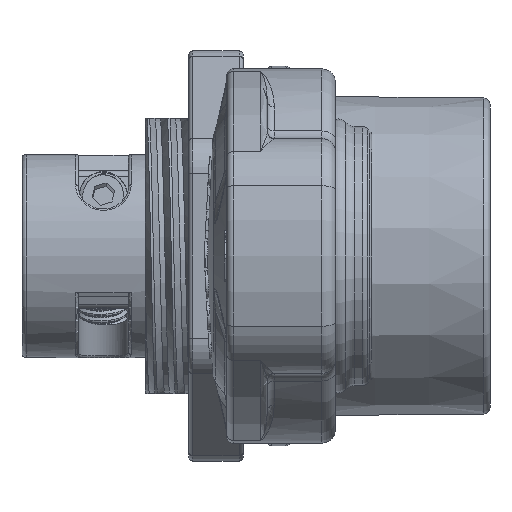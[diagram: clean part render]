
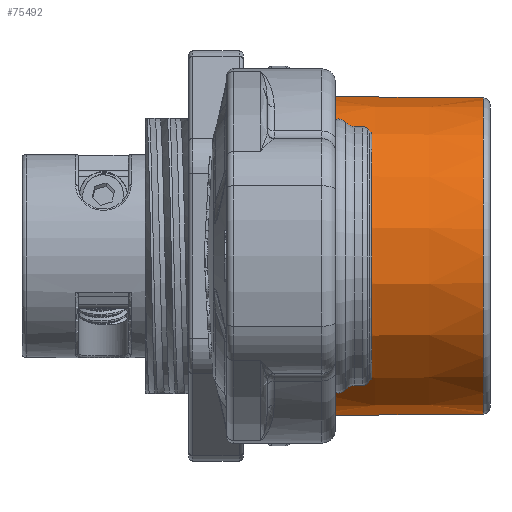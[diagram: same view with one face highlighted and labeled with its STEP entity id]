
A CAD part, front view. The second image highlights one B-rep face of the part: STEP entity #75492.
In plain terms, the highlighted conical face has half-angle 0.5 degrees and reference radius 11.65 mm.
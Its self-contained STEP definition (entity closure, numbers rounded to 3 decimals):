
#6287 = DIRECTION ( 'NONE',  ( -1., 0., -0.009 ) ) ;
#6978 = ORIENTED_EDGE ( 'NONE', *, *, #7428, .T. ) ;
#7428 = EDGE_CURVE ( 'NONE', #48888, #84281, #23001, .T. ) ;
#9931 = EDGE_CURVE ( 'NONE', #38410, #48888, #22717, .T. ) ;
#12547 = CARTESIAN_POINT ( 'NONE',  ( -12.425, -1.34, -11.687 ) ) ;
#14153 = CARTESIAN_POINT ( 'NONE',  ( -12.404, 0., 0. ) ) ;
#14384 = CARTESIAN_POINT ( 'NONE',  ( -12.404, -2.007, -11.586 ) ) ;
#19893 = CARTESIAN_POINT ( 'NONE',  ( 0., 0., -11.65 ) ) ;
#20498 = CARTESIAN_POINT ( 'NONE',  ( -12.404, -2.007, 11.586 ) ) ;
#22507 = CARTESIAN_POINT ( 'NONE',  ( -0.496, 0., -11.654 ) ) ;
#22717 = CIRCLE ( 'NONE', #75065, 11.758 ) ;
#22842 = DIRECTION ( 'NONE',  ( 0., 0., -1. ) ) ;
#23001 = B_SPLINE_CURVE_WITH_KNOTS ( 'NONE', 3,
 ( #14384, #74730, #12547, #40041, #81672, #35519 ),
 .UNSPECIFIED., .F., .F.,
 ( 4, 2, 4 ),
 ( 0., 0.001, 0.002 ),
 .UNSPECIFIED. ) ;
#28791 = CARTESIAN_POINT ( 'NONE',  ( -0.496, 0., 11.654 ) ) ;
#28796 = B_SPLINE_CURVE_WITH_KNOTS ( 'NONE', 3,
 ( #39299, #81512, #46224, #80918, #39600, #87892 ),
 .UNSPECIFIED., .F., .F.,
 ( 4, 2, 4 ),
 ( 0.002, 0.003, 0.004 ),
 .UNSPECIFIED. ) ;
#28979 = ORIENTED_EDGE ( 'NONE', *, *, #79225, .T. ) ;
#31113 = ORIENTED_EDGE ( 'NONE', *, *, #69319, .T. ) ;
#31146 = VECTOR ( 'NONE', #38457, 1000. ) ;
#32964 = CIRCLE ( 'NONE', #45295, 11.654 ) ;
#33213 = CONICAL_SURFACE ( 'NONE', #43439, 11.65, 0.009 ) ;
#34406 = DIRECTION ( 'NONE',  ( 1., 0., 0. ) ) ;
#35519 = CARTESIAN_POINT ( 'NONE',  ( -12.477, 0., -11.759 ) ) ;
#38295 = EDGE_CURVE ( 'NONE', #38846, #84281, #55104, .T. ) ;
#38410 = VERTEX_POINT ( 'NONE', #20498 ) ;
#38457 = DIRECTION ( 'NONE',  ( -1., 0., 0.009 ) ) ;
#38846 = VERTEX_POINT ( 'NONE', #22507 ) ;
#39299 = CARTESIAN_POINT ( 'NONE',  ( -12.477, 0., 11.759 ) ) ;
#39600 = CARTESIAN_POINT ( 'NONE',  ( -12.404, -1.674, 11.643 ) ) ;
#39747 = DIRECTION ( 'NONE',  ( -1., 0., 0. ) ) ;
#40041 = CARTESIAN_POINT ( 'NONE',  ( -12.462, -0.67, -11.744 ) ) ;
#41118 = EDGE_CURVE ( 'NONE', #84525, #38410, #28796, .T. ) ;
#42527 = VERTEX_POINT ( 'NONE', #28791 ) ;
#43439 = AXIS2_PLACEMENT_3D ( 'NONE', #53600, #39747, #74438 ) ;
#45295 = AXIS2_PLACEMENT_3D ( 'NONE', #64143, #64456, #22842 ) ;
#46224 = CARTESIAN_POINT ( 'NONE',  ( -12.462, -0.67, 11.744 ) ) ;
#47200 = EDGE_LOOP ( 'NONE', ( #61735, #28979, #31113, #61997, #58127, #6978 ) ) ;
#48888 = VERTEX_POINT ( 'NONE', #52590 ) ;
#51620 = LINE ( 'NONE', #52020, #31146 ) ;
#52020 = CARTESIAN_POINT ( 'NONE',  ( 0., 0., 11.65 ) ) ;
#52590 = CARTESIAN_POINT ( 'NONE',  ( -12.404, -2.007, -11.586 ) ) ;
#52935 = VECTOR ( 'NONE', #6287, 1000. ) ;
#53600 = CARTESIAN_POINT ( 'NONE',  ( 0., 0., 0. ) ) ;
#55104 = LINE ( 'NONE', #19893, #52935 ) ;
#58127 = ORIENTED_EDGE ( 'NONE', *, *, #9931, .T. ) ;
#61735 = ORIENTED_EDGE ( 'NONE', *, *, #38295, .F. ) ;
#61997 = ORIENTED_EDGE ( 'NONE', *, *, #41118, .T. ) ;
#62434 = DIRECTION ( 'NONE',  ( 0., 0., 1. ) ) ;
#64143 = CARTESIAN_POINT ( 'NONE',  ( -0.496, 0., 0. ) ) ;
#64456 = DIRECTION ( 'NONE',  ( -1., 0., 0. ) ) ;
#69319 = EDGE_CURVE ( 'NONE', #42527, #84525, #51620, .T. ) ;
#72672 = CARTESIAN_POINT ( 'NONE',  ( -12.477, 0., -11.759 ) ) ;
#74438 = DIRECTION ( 'NONE',  ( 0., 0., 1. ) ) ;
#74730 = CARTESIAN_POINT ( 'NONE',  ( -12.404, -1.674, -11.643 ) ) ;
#75065 = AXIS2_PLACEMENT_3D ( 'NONE', #14153, #34406, #62434 ) ;
#75276 = FACE_OUTER_BOUND ( 'NONE', #47200, .T. ) ;
#75492 = ADVANCED_FACE ( 'NONE', ( #75276 ), #33213, .T. ) ;
#79225 = EDGE_CURVE ( 'NONE', #38846, #42527, #32964, .T. ) ;
#80918 = CARTESIAN_POINT ( 'NONE',  ( -12.425, -1.34, 11.687 ) ) ;
#81074 = CARTESIAN_POINT ( 'NONE',  ( -12.477, 0., 11.759 ) ) ;
#81512 = CARTESIAN_POINT ( 'NONE',  ( -12.477, -0.335, 11.759 ) ) ;
#81672 = CARTESIAN_POINT ( 'NONE',  ( -12.477, -0.335, -11.759 ) ) ;
#84281 = VERTEX_POINT ( 'NONE', #72672 ) ;
#84525 = VERTEX_POINT ( 'NONE', #81074 ) ;
#87892 = CARTESIAN_POINT ( 'NONE',  ( -12.404, -2.007, 11.586 ) ) ;
